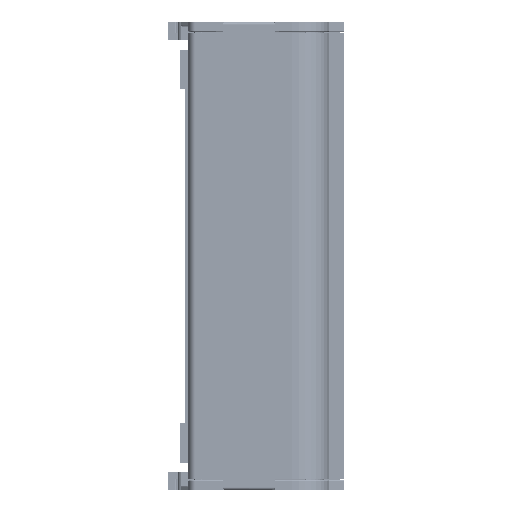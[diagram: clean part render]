
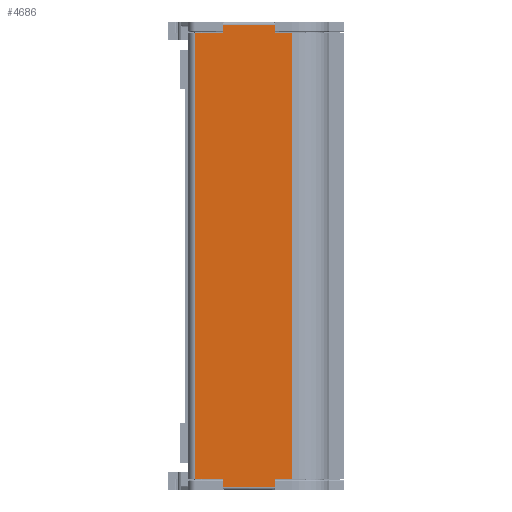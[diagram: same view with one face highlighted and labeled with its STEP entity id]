
A CAD part, left-side view. The second image highlights one B-rep face of the part: STEP entity #4686.
In plain terms, the highlighted planar face has unit normal (-1, 0, 0).
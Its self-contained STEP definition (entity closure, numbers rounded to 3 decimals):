
#4686=ADVANCED_FACE('',(#7916),#6834,.F.);
#6834=PLANE('',#37925);
#7916=FACE_OUTER_BOUND('',#9856,.T.);
#9856=EDGE_LOOP('',(#12389,#12390,#12391,#12392,#12393,#12394,#12395,#12396,
#12397,#12398,#12399,#12400));
#12389=ORIENTED_EDGE('',*,*,#26937,.T.);
#12390=ORIENTED_EDGE('',*,*,#26938,.T.);
#12391=ORIENTED_EDGE('',*,*,#26939,.F.);
#12392=ORIENTED_EDGE('',*,*,#26940,.F.);
#12393=ORIENTED_EDGE('',*,*,#26941,.T.);
#12394=ORIENTED_EDGE('',*,*,#26942,.T.);
#12395=ORIENTED_EDGE('',*,*,#26943,.F.);
#12396=ORIENTED_EDGE('',*,*,#26944,.T.);
#12397=ORIENTED_EDGE('',*,*,#26945,.T.);
#12398=ORIENTED_EDGE('',*,*,#26946,.T.);
#12399=ORIENTED_EDGE('',*,*,#26947,.F.);
#12400=ORIENTED_EDGE('',*,*,#26948,.F.);
#23313=VERTEX_POINT('',#49098);
#23314=VERTEX_POINT('',#49099);
#23315=VERTEX_POINT('',#49101);
#23316=VERTEX_POINT('',#49103);
#23317=VERTEX_POINT('',#49105);
#23318=VERTEX_POINT('',#49107);
#23319=VERTEX_POINT('',#49109);
#23320=VERTEX_POINT('',#49111);
#23321=VERTEX_POINT('',#49113);
#23322=VERTEX_POINT('',#49115);
#23323=VERTEX_POINT('',#49117);
#23324=VERTEX_POINT('',#49119);
#26937=EDGE_CURVE('',#23313,#23314,#32399,.T.);
#26938=EDGE_CURVE('',#23314,#23315,#32400,.T.);
#26939=EDGE_CURVE('',#23316,#23315,#32401,.T.);
#26940=EDGE_CURVE('',#23317,#23316,#32402,.T.);
#26941=EDGE_CURVE('',#23317,#23318,#32403,.T.);
#26942=EDGE_CURVE('',#23318,#23319,#32404,.T.);
#26943=EDGE_CURVE('',#23320,#23319,#32405,.T.);
#26944=EDGE_CURVE('',#23320,#23321,#32406,.T.);
#26945=EDGE_CURVE('',#23321,#23322,#32407,.T.);
#26946=EDGE_CURVE('',#23322,#23323,#32408,.T.);
#26947=EDGE_CURVE('',#23324,#23323,#32409,.T.);
#26948=EDGE_CURVE('',#23313,#23324,#32410,.T.);
#32399=LINE('',#49097,#35123);
#32400=LINE('',#49100,#35124);
#32401=LINE('',#49102,#35125);
#32402=LINE('',#49104,#35126);
#32403=LINE('',#49106,#35127);
#32404=LINE('',#49108,#35128);
#32405=LINE('',#49110,#35129);
#32406=LINE('',#49112,#35130);
#32407=LINE('',#49114,#35131);
#32408=LINE('',#49116,#35132);
#32409=LINE('',#49118,#35133);
#32410=LINE('',#49120,#35134);
#35123=VECTOR('',#40748,1.);
#35124=VECTOR('',#40749,1.);
#35125=VECTOR('',#40750,1.);
#35126=VECTOR('',#40751,1.);
#35127=VECTOR('',#40752,1.);
#35128=VECTOR('',#40753,1.);
#35129=VECTOR('',#40754,1.);
#35130=VECTOR('',#40755,1.);
#35131=VECTOR('',#40756,1.);
#35132=VECTOR('',#40757,1.);
#35133=VECTOR('',#40758,1.);
#35134=VECTOR('',#40759,1.);
#37925=AXIS2_PLACEMENT_3D('',#49121,#40760,#40761);
#40748=DIRECTION('',(0.,0.,1.));
#40749=DIRECTION('',(0.,1.,0.));
#40750=DIRECTION('',(0.,0.,1.));
#40751=DIRECTION('',(0.,-1.,0.));
#40752=DIRECTION('',(0.,0.,-1.));
#40753=DIRECTION('',(0.,-1.,0.));
#40754=DIRECTION('',(0.,0.,1.));
#40755=DIRECTION('',(0.,-1.,0.));
#40756=DIRECTION('',(0.,0.,1.));
#40757=DIRECTION('',(0.,-1.,0.));
#40758=DIRECTION('',(0.,0.,-1.));
#40759=DIRECTION('',(0.,-1.,0.));
#40760=DIRECTION('',(1.,0.,0.));
#40761=DIRECTION('',(0.,1.,0.));
#49097=CARTESIAN_POINT('',(6.937,81.884,-99.4));
#49098=CARTESIAN_POINT('',(6.937,81.884,-44.8));
#49099=CARTESIAN_POINT('',(6.937,81.884,-42.45));
#49100=CARTESIAN_POINT('',(6.937,96.184,-42.45));
#49101=CARTESIAN_POINT('',(6.937,96.184,-42.45));
#49102=CARTESIAN_POINT('',(6.937,96.184,-99.4));
#49103=CARTESIAN_POINT('',(6.937,96.184,-44.8));
#49104=CARTESIAN_POINT('',(6.937,103.634,-44.8));
#49105=CARTESIAN_POINT('',(6.937,103.834,-44.8));
#49106=CARTESIAN_POINT('',(6.937,103.834,-164.4));
#49107=CARTESIAN_POINT('',(6.937,103.834,-168.2));
#49108=CARTESIAN_POINT('',(6.937,103.634,-168.2));
#49109=CARTESIAN_POINT('',(6.937,96.184,-168.2));
#49110=CARTESIAN_POINT('',(6.937,96.184,-164.4));
#49111=CARTESIAN_POINT('',(6.937,96.184,-170.55));
#49112=CARTESIAN_POINT('',(6.937,103.434,-170.55));
#49113=CARTESIAN_POINT('',(6.937,81.884,-170.55));
#49114=CARTESIAN_POINT('',(6.937,81.884,-164.4));
#49115=CARTESIAN_POINT('',(6.937,81.884,-168.2));
#49116=CARTESIAN_POINT('',(6.937,103.434,-168.2));
#49117=CARTESIAN_POINT('',(6.937,77.034,-168.2));
#49118=CARTESIAN_POINT('',(6.937,77.034,-139.));
#49119=CARTESIAN_POINT('',(6.937,77.034,-44.8));
#49120=CARTESIAN_POINT('',(6.937,103.434,-44.8));
#49121=CARTESIAN_POINT('',(6.937,103.434,-164.4));
